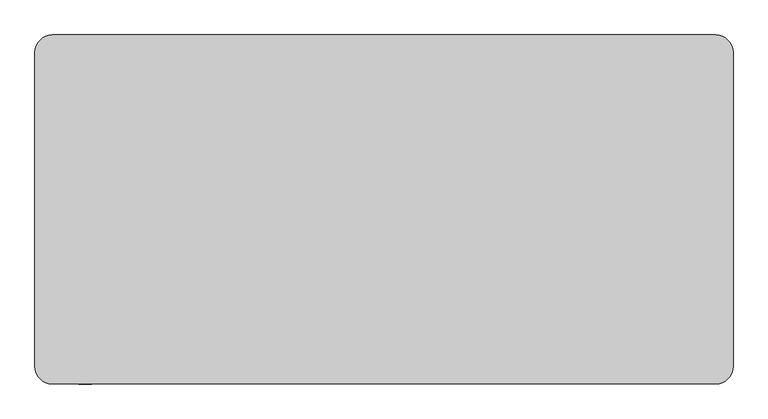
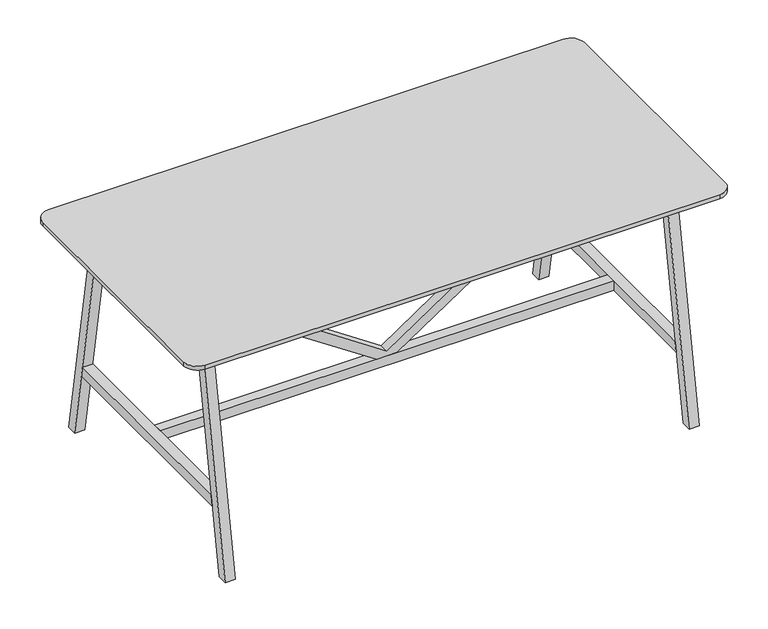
"""IFC4 building model written with IfcOpenShell, lengths in millimetres: furniture geometry, BDG_BossDesign_Tbls_AgentTables4Legs : AGE-HT-2400-1200-3D."""

from ifc_helpers import new_model, si_unit, point, frame, frame_2d, origin, place, context, project, spatial, polyline, circle_curve, trimmed, segment, composite_curve, outline, extrude, source, transform, mapped, element, save


def furniture_59f9e878(model_context):
    return source(origin(), model_context, "Body", "SweptSolid", [
        extrude(outline(polyline([(1029.0, -1005.0), (985.6193848, -1005.0), (345.0, -44.0212994), (345.0, 44.0212994), (985.6193848, 1005.0), (1029.0, 1005.0), (1029.0, 985.1023991), (364.9999695, 0.0), (1029.0, -985.1023991), (1029.0, -1005.0)])), frame((0.0, -22.5000305, 0.0), z_axis=(0.0, 1.0, 0.0), x_axis=(0.0, 0.0, 1.0)), (0.0, 0.0, 1.0), 45.000061),
        extrude(outline(polyline([(-494.7139143, 345.0), (494.7139143, 345.0), (502.5773161, 300.0), (-502.5773161, 300.0), (-494.7139143, 345.0)])), frame((1005.0, 0.0, 0.0), z_axis=(1.0, 0.0, 0.0), x_axis=(0.0, 1.0, 0.0)), (0.0, 0.0, 1.0), 45.0),
        extrude(outline(polyline([(600.0, 0.0), (554.9999949, 0.0), (385.5, 970.0), (430.5000051, 970.0), (600.0, 0.0)])), frame((-1050.0, 0.0, 0.0), z_axis=(1.0, 0.0, 0.0), x_axis=(0.0, 1.0, 0.0)), (0.0, 0.0, 1.0), 45.0),
        extrude(outline(polyline([(-600.0, 0.0), (-430.5000051, 970.0), (-385.5, 970.0), (-554.9999949, 0.0), (-600.0, 0.0)])), frame((-1050.0, 0.0, 0.0), z_axis=(1.0, 0.0, 0.0), x_axis=(0.0, 1.0, 0.0)), (0.0, 0.0, 1.0), 45.0),
        extrude(outline(polyline([(-379.5, 1032.0), (379.5, 1032.0), (397.9691272, 960.0), (-397.9691272, 960.0), (-379.5, 1032.0)])), frame((588.0, 0.0, 0.0), z_axis=(1.0, 0.0, 0.0), x_axis=(0.0, 1.0, 0.0)), (0.0, 0.0, 1.0), 24.0),
        extrude(outline(polyline([(-494.7139143, 345.0), (494.7139143, 345.0), (502.5773161, 300.0), (-502.5773161, 300.0), (-494.7139143, 345.0)])), frame((-1050.0, 0.0, 0.0), z_axis=(1.0, 0.0, 0.0), x_axis=(0.0, 1.0, 0.0)), (0.0, 0.0, 1.0), 45.0),
        extrude(outline(polyline([(-379.5, 1032.0), (379.5, 1032.0), (397.9691272, 960.0), (-397.9691272, 960.0), (-379.5, 1032.0)])), frame((-612.0, 0.0, 0.0), z_axis=(1.0, 0.0, 0.0), x_axis=(0.0, 1.0, 0.0)), (0.0, 0.0, 1.0), 24.0),
        extrude(outline(polyline([(-426.6006165, 944.973938), (-404.2770691, 1032.0), (-379.5, 1032.0), (-401.8235474, 944.973938), (-426.6006165, 944.973938)])), frame((-1005.0, 0.0, 0.0), z_axis=(1.0, 0.0, 0.0), x_axis=(0.0, 1.0, 0.0)), (0.0, 0.0, 1.0), 2010.0),
        extrude(outline(polyline([(426.6006165, 944.973938), (401.8235474, 944.973938), (379.5, 1032.0), (404.2770691, 1032.0), (426.6006165, 944.973938)])), frame((-1005.0, 0.0, 0.0), z_axis=(1.0, 0.0, 0.0), x_axis=(0.0, 1.0, 0.0)), (0.0, 0.0, 1.0), 2010.0),
        extrude(outline(polyline([(599.7999878, 0.0), (554.7999827, 0.0), (385.5, 970.0), (430.5000051, 970.0), (599.7999878, 0.0)])), frame((1005.0, 0.0, 0.0), z_axis=(1.0, 0.0, 0.0), x_axis=(0.0, 1.0, 0.0)), (0.0, 0.0, 1.0), 45.0),
        extrude(outline(polyline([(-599.7999878, 0.0), (-430.5000051, 970.0), (-385.5, 970.0), (-554.7999827, 0.0), (-599.7999878, 0.0)])), frame((1005.0, 0.0, 0.0), z_axis=(1.0, 0.0, 0.0), x_axis=(0.0, 1.0, 0.0)), (0.0, 0.0, 1.0), 45.0),
        extrude(outline(polyline([(1005.0, 22.5000305), (1005.0, -22.5000305), (-1005.0, -22.5000305), (-1005.0, 22.5000305), (1005.0, 22.5000305)])), frame((0.0, 0.0, 300.0), z_axis=(0.0, 0.0, 1.0), x_axis=(1.0, 0.0, 0.0)), (0.0, 0.0, 1.0), 45.0),
        extrude(outline(composite_curve([segment(trimmed(circle_curve(frame_2d((1140.0, 540.0)), 60.0), [point((1140.0, 600.0))], [point((1200.0, 540.0))], False, "CARTESIAN"), True, "CONTINUOUS"), segment(polyline([(1200.0, 540.0), (1200.0, -540.0)]), True, "CONTINUOUS"), segment(trimmed(circle_curve(frame_2d((1140.0, -540.0)), 60.0), [point((1200.0, -540.0))], [point((1140.0, -600.0))], False, "CARTESIAN"), True, "CONTINUOUS"), segment(polyline([(1140.0, -600.0), (-1140.0, -600.0)]), True, "CONTINUOUS"), segment(trimmed(circle_curve(frame_2d((-1140.0, -540.0)), 60.0), [point((-1140.0, -600.0))], [point((-1200.0, -540.0))], False, "CARTESIAN"), True, "CONTINUOUS"), segment(polyline([(-1200.0, -540.0), (-1200.0, 540.0)]), True, "CONTINUOUS"), segment(trimmed(circle_curve(frame_2d((-1140.0, 540.0)), 60.0), [point((-1200.0, 540.0))], [point((-1140.0, 600.0))], False, "CARTESIAN"), True, "CONTINUOUS"), segment(polyline([(-1140.0, 600.0), (1140.0, 600.0)]), True, "CONTINUOUS")], self_intersect=False)), frame((0.0, 0.0, 1032.0), z_axis=(0.0, 0.0, 1.0), x_axis=(1.0, 0.0, 0.0)), (0.0, 0.0, 1.0), 18.0),
    ])


if __name__ == "__main__":
    model = new_model("IFC4")
    model_context = context("Model", 3, world=origin())
    ifc_project = project(units=[si_unit("LENGTHUNIT", "METRE", prefix="MILLI")], contexts=[model_context])
    site = spatial("IfcSite", under=ifc_project)
    building = spatial("IfcBuilding", under=site)
    placement = place(None, origin())
    furniture_shape = furniture_59f9e878(model_context)
    element("IfcFurniture", 1, ObjectType="BDG_BossDesign_Tbls_AgentTables4Legs : AGE-HT-2400-1200-3D", at=placement, inside=building, context=model_context, shape_type="MappedRepresentation", body=[
        mapped(furniture_shape, transform((0.0, 0.0, 0.0), x_axis=(1.0, 0.0, 0.0), y_axis=(0.0, 1.0, 0.0), z_axis=(0.0, 0.0, 1.0))),
    ])
    save(model, "model.ifc")
